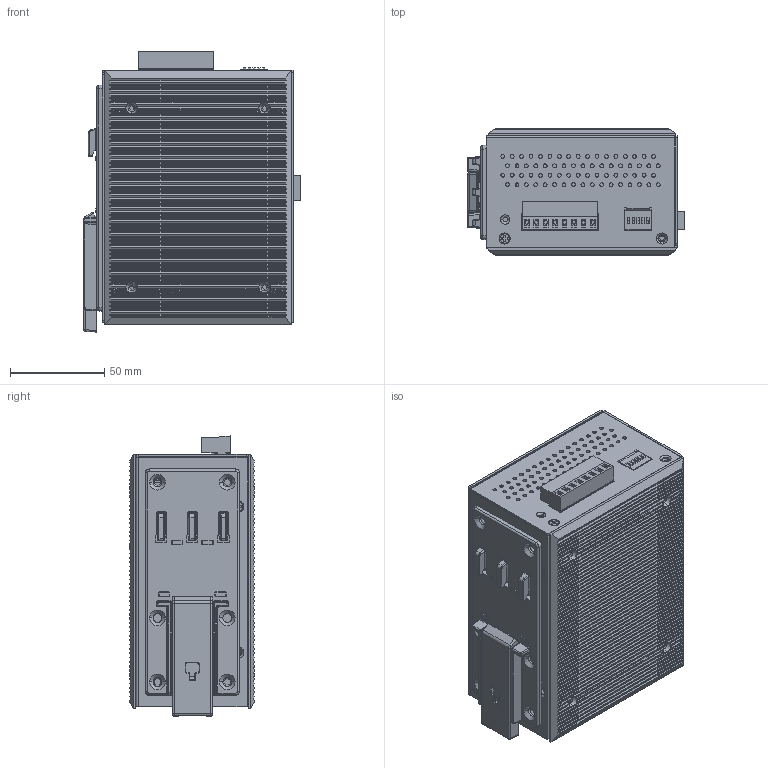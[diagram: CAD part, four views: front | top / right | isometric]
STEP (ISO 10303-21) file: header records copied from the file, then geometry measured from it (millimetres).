
FILE_DESCRIPTION((''),'2;1');
FILE_NAME('3D_PTC-101-S-LC-LV','2016-06-20T',('Vincent_Huang'),(''),'PRO/ENGINEER BY PARAMETRIC TECHNOLOGY CORPORATION, 2013050','PRO/ENGINEER BY PARAMETRIC TECHNOLOGY CORPORATION, 2013050','');
FILE_SCHEMA(('CONFIG_CONTROL_DESIGN'));
Products named in the file (1): 3D_PTC-101-S-LC-LV
Bounding box: 115.1 x 66.78 x 148.65 mm (x, y, z)
Volume: 233762.9 mm3; surface area: 224281.8 mm2
Topology: 2 solids, 9 shells, 3428 faces, 9131 edges, 5874 vertices
Faces by surface type: plane 1637, cylinder 1468, bspline 158, torus 95, cone 50, sphere 20
Entity records: 118254 total; most frequent: CARTESIAN_POINT 32692, ORIENTED_EDGE 18162, DIRECTION 16980, EDGE_CURVE 9111, VERTEX_POINT 5875, AXIS2_PLACEMENT_3D 5740, VECTOR 5500, LINE 5500
